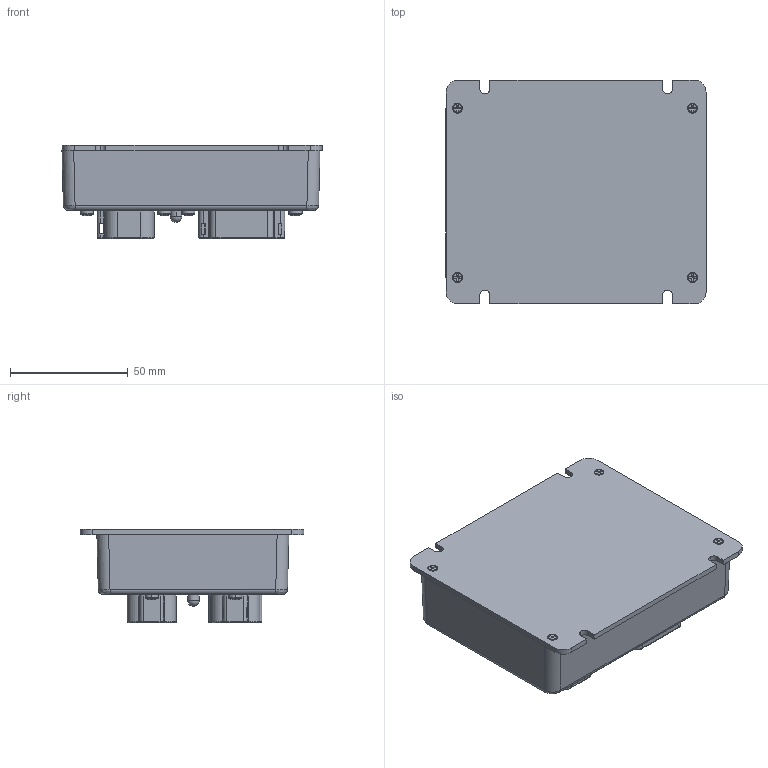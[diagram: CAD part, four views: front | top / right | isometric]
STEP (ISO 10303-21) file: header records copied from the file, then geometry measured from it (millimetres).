
FILE_DESCRIPTION (( 'STEP AP214' ), '1' );
FILE_NAME ('Zettlex_ver4.STEP', '2017-12-20T21:05:33', ( '' ), ( '' ), 'SwSTEP 2.0', 'SolidWorks 2014', '' );
FILE_SCHEMA (( 'AUTOMOTIVE_DESIGN' ));
Length unit declared in the file: millimetre
Products named in the file (18): Model_18; Model_16; Model_14; Model_10; Model_6; Model_2; Board; 1590S Box; Zettlex_ver4; flat head 100 screw_ai2_CR-FHM1 0.086-56x0.3125x0.3125-N; pan cross head_am_B18.6.7M - M3 x 0.5 x 4 Type I Cross Recessed PHMS --4N; v4 lid; Zettlex_1B0; SW3DPS-SOT-23-DEFAULT; Model_49; Model_43; Model_41; Model_22
Assembly tree (54 placements, depth 3):
  Zettlex_ver4
    1590S Box
    Zettlex_1B0
      Board
      Model_2
      Model_6  x3
      Model_10  x3
      Model_14
      Model_16
      Model_18  x3
      Model_22  x18
      Model_41
      Model_43  x5
      Model_49
      SW3DPS-SOT-23-DEFAULT
    v4 lid
    pan cross head_am_B18.6.7M - M3 x 0.5 x 4 Type I Cross Recessed PHMS --4N  x8
    flat head 100 screw_ai2_CR-FHM1 0.086-56x0.3125x0.3125-N  x4
Bounding box: 110.64 x 95.24 x 39.79 mm (x, y, z)
Volume: 147621 mm3; surface area: 104803.8 mm2
Topology: 119 solids, 119 shells, 5837 faces, 15018 edges, 9664 vertices
Faces by surface type: plane 2962, bspline 1558, cylinder 1222, cone 62, sphere 17, torus 16
Entity records: 117283 total; most frequent: CARTESIAN_POINT 37757, ORIENTED_EDGE 12178, DIRECTION 10348, EDGE_CURVE 6089, VERTEX_POINT 3927, LINE 3572, VECTOR 3572, AXIS2_PLACEMENT_3D 3388
